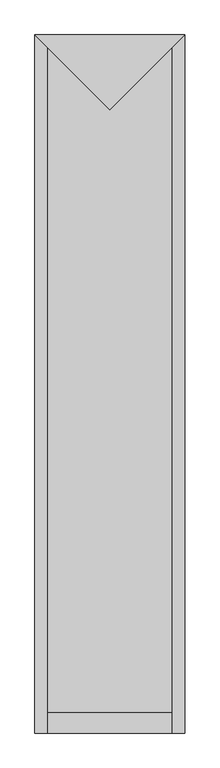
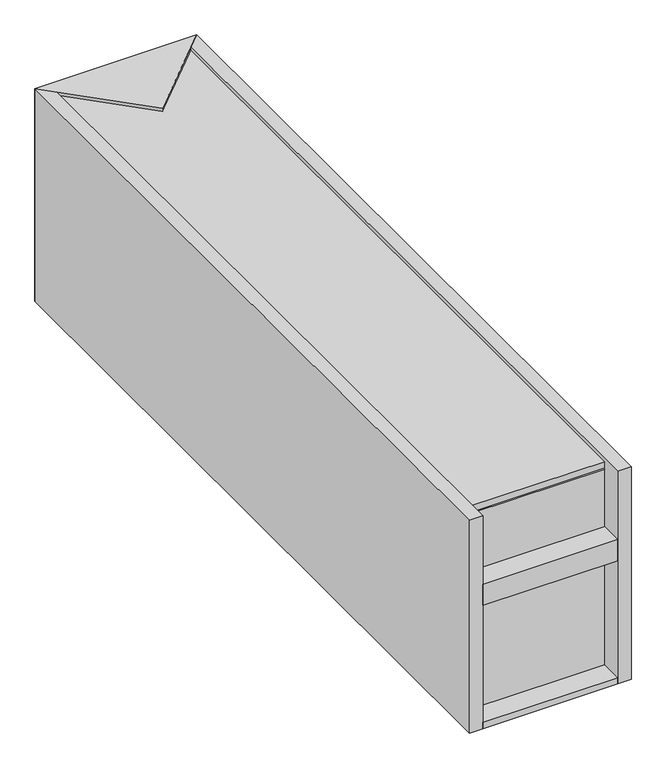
"""IFC4 building model written with IfcOpenShell, lengths in millimetres: proxy geometry, AERO^OFFICE 1_WARDROBE LEFT-PARTS SOLID."""

from ifc_helpers import new_model, si_unit, frame, origin, place, context, project, spatial, polyline, outline, extrude, source, transform, mapped, element, save


def generic_models_f49f403f(model_context):
    return source(origin(), model_context, "Body", "SweptSolid", [
        extrude(outline(polyline([(38.1, 63.5), (38.1, 88.9), (419.1, 88.9), (419.1, 63.5), (38.1, 63.5)])), frame((0.0, 0.0, -615.95), z_axis=(0.0, 0.0, 1.0), x_axis=(1.0, 0.0, 0.0)), (0.0, 0.0, 1.0), 584.2),
        extrude(outline(polyline([(457.2, 2127.25), (228.6, 1898.65), (0.0, 2127.25), (457.2, 2127.25)])), frame((0.0, 0.0, -635.0), z_axis=(0.0, 0.0, 1.0), x_axis=(1.0, 0.0, 0.0)), (0.0, 0.0, 1.0), 635.0),
        extrude(outline(polyline([(419.1, 0.0), (419.1, 2089.15), (457.2, 2127.25), (457.2, 0.0), (419.1, 0.0)])), frame((0.0, 0.0, -635.0), z_axis=(0.0, 0.0, 1.0), x_axis=(1.0, 0.0, 0.0)), (0.0, 0.0, 1.0), 635.0),
        extrude(outline(polyline([(38.1, 63.5), (419.1, 63.5), (419.1, 0.0), (38.1, 0.0), (38.1, 63.5)])), frame((0.0, 0.0, -266.7), z_axis=(0.0, 0.0, 1.0), x_axis=(1.0, 0.0, 0.0)), (0.0, 0.0, 1.0), 63.5),
        extrude(outline(polyline([(419.1, 0.0), (38.1, 0.0), (38.1, 2089.15), (419.1, 2089.15), (419.1, 0.0)])), frame((0.0, 0.0, -635.0), z_axis=(0.0, 0.0, 1.0), x_axis=(1.0, 0.0, 0.0)), (0.0, 0.0, 1.0), 19.05),
        extrude(outline(polyline([(428.625, 2098.675), (428.625, 63.5), (28.575, 63.5), (28.575, 2098.675), (428.625, 2098.675)])), frame((0.0, 0.0, -28.575), z_axis=(0.0, 0.0, 1.0), x_axis=(1.0, 0.0, 0.0)), (0.0, 0.0, 1.0), 19.05),
        extrude(outline(polyline([(0.0, 2127.25), (38.1, 2089.15), (38.1, 0.0), (0.0, 0.0), (0.0, 2127.25)])), frame((0.0, 0.0, -635.0), z_axis=(0.0, 0.0, 1.0), x_axis=(1.0, 0.0, 0.0)), (0.0, 0.0, 1.0), 635.0),
    ])


if __name__ == "__main__":
    model = new_model("IFC4")
    model_context = context("Model", 3, world=origin())
    ifc_project = project(units=[si_unit("LENGTHUNIT", "METRE", prefix="MILLI")], contexts=[model_context])
    site = spatial("IfcSite", under=ifc_project)
    building = spatial("IfcBuilding", under=site)
    placement = place(None, origin())
    generic_models_shape = generic_models_f49f403f(model_context)
    element("IfcBuildingElementProxy", 1, Name="AERO^OFFICE 1_WARDROBE LEFT-PARTS SOLID", ObjectType="AERO^OFFICE 1_WARDROBE LEFT-PARTS SOLID", at=placement, inside=building, context=model_context, shape_type="MappedRepresentation", body=[
        mapped(generic_models_shape, transform((0.0, 0.0, 0.0), x_axis=(1.0, 0.0, 0.0), y_axis=(0.0, 1.0, 0.0), z_axis=(0.0, 0.0, 1.0))),
    ])
    save(model, "model.ifc")
